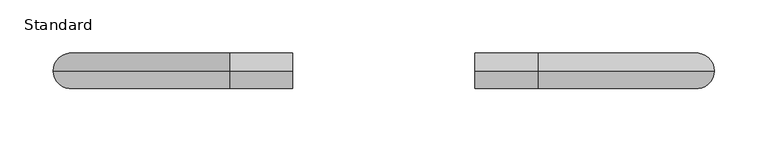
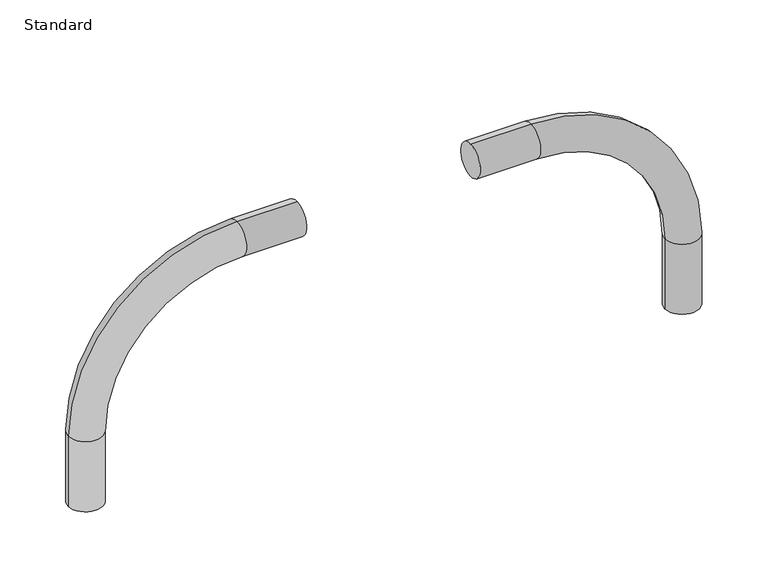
"""IFC4 building model written with IfcOpenShell, lengths in millimetres: proxy geometry, Floor_Box-Modulink-Wiremold-880_Nonmetallic-1_Gang-Fire_Classified : Standard."""

from ifc_helpers import new_model, si_unit, point, frame, origin, place, context, project, spatial, circle_curve, ellipse_curve, trimmed, source, transform, mapped, element, save
from ifc_brep_helpers import plane_surface, cylinder_surface, revolved_surface, advanced_brep


def standard_33e52a59(model_context):
    return source(origin(), model_context, "Body", "AdvancedBrep", [
        advanced_brep(
        [(85.725, 0.0, -104.6099), (85.725, 0.0, -138.2649), (145.0975, 0.0, -104.6099), (145.0975, 0.0, -138.2649), (277.495, 0.0, -270.6624), (311.15, 0.0, -270.6624), (311.15, 0.0, -343.6874), (277.495, 0.0, -343.6874)],
        [
            (0, 1, circle_curve(frame((85.725, 0.0, -121.4374), z_axis=(-1.0, 0.0, 0.0), x_axis=(0.0, 0.0, -1.0)), 16.8275)),
            (1, 0, circle_curve(frame((85.725, 0.0, -121.4374), z_axis=(-1.0, 0.0, 0.0), x_axis=(0.0, 0.0, -1.0)), 16.8275)),
            (0, 2),
            (2, 3, circle_curve(frame((145.0975, 0.0, -121.4374), z_axis=(-1.0, 0.0, 0.0), x_axis=(0.0, 0.0, -1.0)), 16.8275)),
            (3, 1),
            (3, 2, circle_curve(frame((145.0975, 0.0, -121.4374), z_axis=(-1.0, 0.0, 0.0), x_axis=(0.0, 0.0, -1.0)), 16.8275)),
            (4, 3, circle_curve(frame((145.0975, 0.0, -270.6624), z_axis=(0.0, -1.0, 0.0), x_axis=(0.0, 0.0, 1.0)), 132.3975)),
            (2, 5, circle_curve(frame((145.0975, 0.0, -270.6624), z_axis=(0.0, 1.0, 0.0), x_axis=(0.0, 0.0, 1.0)), 166.0525)),
            (5, 4, circle_curve(frame((294.3225, 0.0, -270.6624), z_axis=(0.0, 0.0, 1.0), x_axis=(-1.0, 0.0, 0.0)), 16.8275)),
            (4, 5, circle_curve(frame((294.3225, 0.0, -270.6624), z_axis=(0.0, 0.0, 1.0), x_axis=(-1.0, 0.0, 0.0)), 16.8275)),
            (6, 7, circle_curve(frame((294.3225, 0.0, -343.6874), z_axis=(0.0, 0.0, -1.0), x_axis=(-1.0, 0.0, 0.0)), 16.8275)),
            (7, 6, circle_curve(frame((294.3225, 0.0, -343.6874), z_axis=(0.0, 0.0, -1.0), x_axis=(-1.0, 0.0, 0.0)), 16.8275)),
            (5, 6),
            (7, 4),
        ],
        [
            plane_surface(frame((85.725, 0.0, -121.4374), z_axis=(-1.0, 0.0, 0.0), x_axis=(0.0, 1.0, 0.0))),
            cylinder_surface(frame((85.725, 0.0, -121.4374), z_axis=(-1.0, 0.0, 0.0), x_axis=(0.0, 0.0, -1.0)), 16.8275),
            revolved_surface(trimmed(ellipse_curve(frame((145.0975, 0.0, -121.4374), z_axis=(-1.0, 0.0, 0.0), x_axis=(0.0, 0.0, -1.0)), 16.8275, 16.8275), [point((145.0975, 0.0, -104.6099))], [point((145.0975, 0.0, -138.2649))], True, "CARTESIAN"), (145.0975, 0.0, -270.6624), (0.0, 1.0, 0.0)),
            revolved_surface(trimmed(ellipse_curve(frame((145.0975, 0.0, -121.4374), z_axis=(-1.0, 0.0, 0.0), x_axis=(0.0, 0.0, -1.0)), 16.8275, 16.8275), [point((145.0975, 0.0, -138.2649))], [point((145.0975, 0.0, -104.6099))], True, "CARTESIAN"), (145.0975, 0.0, -270.6624), (0.0, 1.0, 0.0)),
            plane_surface(frame((294.3225, 0.0, -343.6874), z_axis=(0.0, 0.0, -1.0), x_axis=(0.0, 1.0, 0.0))),
            cylinder_surface(frame((294.3225, 0.0, -270.6624), z_axis=(0.0, 0.0, 1.0), x_axis=(-1.0, 0.0, 0.0)), 16.8275),
        ],
        [
            (0, [[1, 2]]),
            (1, [[-1, 3, 4, 5]]),
            (1, [[-2, -5, 6, -3]]),
            (2, [[7, -4, 8, 9]]),
            (3, [[-8, -6, -7, 10]]),
            (4, [[11, 12]]),
            (5, [[-9, 13, -12, 14]]),
            (5, [[-10, -14, -11, -13]]),
        ],
    ),
        advanced_brep(
        [(-311.15, 0.0, -343.6874), (-277.495, 0.0, -343.6874), (-311.15, 0.0, -270.6624), (-277.495, 0.0, -270.6624), (-145.0975, 0.0, -138.2649), (-145.0975, 0.0, -104.6099), (-85.725, 0.0, -104.6099), (-85.725, 0.0, -138.2649)],
        [
            (0, 1, circle_curve(frame((-294.3225, 0.0, -343.6874), z_axis=(0.0, 0.0, -1.0), x_axis=(1.0, 0.0, 0.0)), 16.8275)),
            (1, 0, circle_curve(frame((-294.3225, 0.0, -343.6874), z_axis=(0.0, 0.0, -1.0), x_axis=(1.0, 0.0, 0.0)), 16.8275)),
            (0, 2),
            (2, 3, circle_curve(frame((-294.3225, 0.0, -270.6624), z_axis=(0.0, 0.0, -1.0), x_axis=(1.0, 0.0, 0.0)), 16.8275)),
            (3, 1),
            (3, 2, circle_curve(frame((-294.3225, 0.0, -270.6624), z_axis=(0.0, 0.0, -1.0), x_axis=(1.0, 0.0, 0.0)), 16.8275)),
            (4, 3, circle_curve(frame((-145.0975, 0.0, -270.6624), z_axis=(0.0, -1.0, 0.0), x_axis=(-1.0, 0.0, 0.0)), 132.3975)),
            (2, 5, circle_curve(frame((-145.0975, 0.0, -270.6624), z_axis=(0.0, 1.0, 0.0), x_axis=(-1.0, 0.0, 0.0)), 166.0525)),
            (5, 4, circle_curve(frame((-145.0975, 0.0, -121.4374), z_axis=(-1.0, 0.0, 0.0), x_axis=(0.0, 0.0, -1.0)), 16.8275)),
            (4, 5, circle_curve(frame((-145.0975, 0.0, -121.4374), z_axis=(-1.0, 0.0, 0.0), x_axis=(0.0, 0.0, -1.0)), 16.8275)),
            (6, 7, circle_curve(frame((-85.725, 0.0, -121.4374), z_axis=(1.0, 0.0, 0.0), x_axis=(0.0, 0.0, -1.0)), 16.8275)),
            (7, 6, circle_curve(frame((-85.725, 0.0, -121.4374), z_axis=(1.0, 0.0, 0.0), x_axis=(0.0, 0.0, -1.0)), 16.8275)),
            (5, 6),
            (7, 4),
        ],
        [
            plane_surface(frame((-294.3225, 0.0, -343.6874), z_axis=(0.0, 0.0, -1.0), x_axis=(0.0, 1.0, 0.0))),
            cylinder_surface(frame((-294.3225, 0.0, -343.6874), z_axis=(0.0, 0.0, -1.0), x_axis=(1.0, 0.0, 0.0)), 16.8275),
            revolved_surface(trimmed(ellipse_curve(frame((-294.3225, 0.0, -270.6624), z_axis=(0.0, 0.0, -1.0), x_axis=(1.0, 0.0, 0.0)), 16.8275, 16.8275), [point((-311.15, 0.0, -270.6624))], [point((-277.495, 0.0, -270.6624))], True, "CARTESIAN"), (-145.0975, 0.0, -270.6624), (0.0, 1.0, 0.0)),
            revolved_surface(trimmed(ellipse_curve(frame((-294.3225, 0.0, -270.6624), z_axis=(0.0, 0.0, -1.0), x_axis=(1.0, 0.0, 0.0)), 16.8275, 16.8275), [point((-277.495, 0.0, -270.6624))], [point((-311.15, 0.0, -270.6624))], True, "CARTESIAN"), (-145.0975, 0.0, -270.6624), (0.0, 1.0, 0.0)),
            plane_surface(frame((-85.725, 0.0, -121.4374), z_axis=(1.0, 0.0, 0.0), x_axis=(0.0, 1.0, 0.0))),
            cylinder_surface(frame((-145.0975, 0.0, -121.4374), z_axis=(-1.0, 0.0, 0.0), x_axis=(0.0, 0.0, -1.0)), 16.8275),
        ],
        [
            (0, [[1, 2]]),
            (1, [[-1, 3, 4, 5]]),
            (1, [[-2, -5, 6, -3]]),
            (2, [[7, -4, 8, 9]]),
            (3, [[-8, -6, -7, 10]]),
            (4, [[11, 12]]),
            (5, [[-9, 13, -12, 14]]),
            (5, [[-10, -14, -11, -13]]),
        ],
    ),
        advanced_brep(
        [(85.725, 0.0, -104.6099), (85.725, 0.0, -138.2649), (145.0975, 0.0, -104.6099), (145.0975, 0.0, -138.2649), (277.495, 0.0, -270.6624), (311.15, 0.0, -270.6624), (311.15, 0.0, -343.6874), (277.495, 0.0, -343.6874)],
        [
            (0, 1, circle_curve(frame((85.725, 0.0, -121.4374), z_axis=(-1.0, 0.0, 0.0), x_axis=(0.0, 0.0, -1.0)), 16.8275)),
            (1, 0, circle_curve(frame((85.725, 0.0, -121.4374), z_axis=(-1.0, 0.0, 0.0), x_axis=(0.0, 0.0, -1.0)), 16.8275)),
            (0, 2),
            (2, 3, circle_curve(frame((145.0975, 0.0, -121.4374), z_axis=(-1.0, 0.0, 0.0), x_axis=(0.0, 0.0, -1.0)), 16.8275)),
            (3, 1),
            (3, 2, circle_curve(frame((145.0975, 0.0, -121.4374), z_axis=(-1.0, 0.0, 0.0), x_axis=(0.0, 0.0, -1.0)), 16.8275)),
            (4, 3, circle_curve(frame((145.0975, 0.0, -270.6624), z_axis=(0.0, -1.0, 0.0), x_axis=(0.0, 0.0, 1.0)), 132.3975)),
            (2, 5, circle_curve(frame((145.0975, 0.0, -270.6624), z_axis=(0.0, 1.0, 0.0), x_axis=(0.0, 0.0, 1.0)), 166.0525)),
            (5, 4, circle_curve(frame((294.3225, 0.0, -270.6624), z_axis=(0.0, 0.0, 1.0), x_axis=(-1.0, 0.0, 0.0)), 16.8275)),
            (4, 5, circle_curve(frame((294.3225, 0.0, -270.6624), z_axis=(0.0, 0.0, 1.0), x_axis=(-1.0, 0.0, 0.0)), 16.8275)),
            (6, 7, circle_curve(frame((294.3225, 0.0, -343.6874), z_axis=(0.0, 0.0, -1.0), x_axis=(-1.0, 0.0, 0.0)), 16.8275)),
            (7, 6, circle_curve(frame((294.3225, 0.0, -343.6874), z_axis=(0.0, 0.0, -1.0), x_axis=(-1.0, 0.0, 0.0)), 16.8275)),
            (5, 6),
            (7, 4),
        ],
        [
            plane_surface(frame((85.725, 0.0, -121.4374), z_axis=(-1.0, 0.0, 0.0), x_axis=(0.0, 1.0, 0.0))),
            cylinder_surface(frame((85.725, 0.0, -121.4374), z_axis=(-1.0, 0.0, 0.0), x_axis=(0.0, 0.0, -1.0)), 16.8275),
            revolved_surface(trimmed(ellipse_curve(frame((145.0975, 0.0, -121.4374), z_axis=(-1.0, 0.0, 0.0), x_axis=(0.0, 0.0, -1.0)), 16.8275, 16.8275), [point((145.0975, 0.0, -104.6099))], [point((145.0975, 0.0, -138.2649))], True, "CARTESIAN"), (145.0975, 0.0, -270.6624), (0.0, 1.0, 0.0)),
            revolved_surface(trimmed(ellipse_curve(frame((145.0975, 0.0, -121.4374), z_axis=(-1.0, 0.0, 0.0), x_axis=(0.0, 0.0, -1.0)), 16.8275, 16.8275), [point((145.0975, 0.0, -138.2649))], [point((145.0975, 0.0, -104.6099))], True, "CARTESIAN"), (145.0975, 0.0, -270.6624), (0.0, 1.0, 0.0)),
            plane_surface(frame((294.3225, 0.0, -343.6874), z_axis=(0.0, 0.0, -1.0), x_axis=(0.0, 1.0, 0.0))),
            cylinder_surface(frame((294.3225, 0.0, -270.6624), z_axis=(0.0, 0.0, 1.0), x_axis=(-1.0, 0.0, 0.0)), 16.8275),
        ],
        [
            (0, [[1, 2]]),
            (1, [[-1, 3, 4, 5]]),
            (1, [[-2, -5, 6, -3]]),
            (2, [[7, -4, 8, 9]]),
            (3, [[-8, -6, -7, 10]]),
            (4, [[11, 12]]),
            (5, [[-9, 13, -12, 14]]),
            (5, [[-10, -14, -11, -13]]),
        ],
    ),
        advanced_brep(
        [(-311.15, 0.0, -343.6874), (-277.495, 0.0, -343.6874), (-311.15, 0.0, -270.6624), (-277.495, 0.0, -270.6624), (-145.0975, 0.0, -138.2649), (-145.0975, 0.0, -104.6099), (-85.725, 0.0, -104.6099), (-85.725, 0.0, -138.2649)],
        [
            (0, 1, circle_curve(frame((-294.3225, 0.0, -343.6874), z_axis=(0.0, 0.0, -1.0), x_axis=(1.0, 0.0, 0.0)), 16.8275)),
            (1, 0, circle_curve(frame((-294.3225, 0.0, -343.6874), z_axis=(0.0, 0.0, -1.0), x_axis=(1.0, 0.0, 0.0)), 16.8275)),
            (0, 2),
            (2, 3, circle_curve(frame((-294.3225, 0.0, -270.6624), z_axis=(0.0, 0.0, -1.0), x_axis=(1.0, 0.0, 0.0)), 16.8275)),
            (3, 1),
            (3, 2, circle_curve(frame((-294.3225, 0.0, -270.6624), z_axis=(0.0, 0.0, -1.0), x_axis=(1.0, 0.0, 0.0)), 16.8275)),
            (4, 3, circle_curve(frame((-145.0975, 0.0, -270.6624), z_axis=(0.0, -1.0, 0.0), x_axis=(-1.0, 0.0, 0.0)), 132.3975)),
            (2, 5, circle_curve(frame((-145.0975, 0.0, -270.6624), z_axis=(0.0, 1.0, 0.0), x_axis=(-1.0, 0.0, 0.0)), 166.0525)),
            (5, 4, circle_curve(frame((-145.0975, 0.0, -121.4374), z_axis=(-1.0, 0.0, 0.0), x_axis=(0.0, 0.0, -1.0)), 16.8275)),
            (4, 5, circle_curve(frame((-145.0975, 0.0, -121.4374), z_axis=(-1.0, 0.0, 0.0), x_axis=(0.0, 0.0, -1.0)), 16.8275)),
            (6, 7, circle_curve(frame((-85.725, 0.0, -121.4374), z_axis=(1.0, 0.0, 0.0), x_axis=(0.0, 0.0, -1.0)), 16.8275)),
            (7, 6, circle_curve(frame((-85.725, 0.0, -121.4374), z_axis=(1.0, 0.0, 0.0), x_axis=(0.0, 0.0, -1.0)), 16.8275)),
            (5, 6),
            (7, 4),
        ],
        [
            plane_surface(frame((-294.3225, 0.0, -343.6874), z_axis=(0.0, 0.0, -1.0), x_axis=(0.0, 1.0, 0.0))),
            cylinder_surface(frame((-294.3225, 0.0, -343.6874), z_axis=(0.0, 0.0, -1.0), x_axis=(1.0, 0.0, 0.0)), 16.8275),
            revolved_surface(trimmed(ellipse_curve(frame((-294.3225, 0.0, -270.6624), z_axis=(0.0, 0.0, -1.0), x_axis=(1.0, 0.0, 0.0)), 16.8275, 16.8275), [point((-311.15, 0.0, -270.6624))], [point((-277.495, 0.0, -270.6624))], True, "CARTESIAN"), (-145.0975, 0.0, -270.6624), (0.0, 1.0, 0.0)),
            revolved_surface(trimmed(ellipse_curve(frame((-294.3225, 0.0, -270.6624), z_axis=(0.0, 0.0, -1.0), x_axis=(1.0, 0.0, 0.0)), 16.8275, 16.8275), [point((-277.495, 0.0, -270.6624))], [point((-311.15, 0.0, -270.6624))], True, "CARTESIAN"), (-145.0975, 0.0, -270.6624), (0.0, 1.0, 0.0)),
            plane_surface(frame((-85.725, 0.0, -121.4374), z_axis=(1.0, 0.0, 0.0), x_axis=(0.0, 1.0, 0.0))),
            cylinder_surface(frame((-145.0975, 0.0, -121.4374), z_axis=(-1.0, 0.0, 0.0), x_axis=(0.0, 0.0, -1.0)), 16.8275),
        ],
        [
            (0, [[1, 2]]),
            (1, [[-1, 3, 4, 5]]),
            (1, [[-2, -5, 6, -3]]),
            (2, [[7, -4, 8, 9]]),
            (3, [[-8, -6, -7, 10]]),
            (4, [[11, 12]]),
            (5, [[-9, 13, -12, 14]]),
            (5, [[-10, -14, -11, -13]]),
        ],
    ),
    ])


if __name__ == "__main__":
    model = new_model("IFC4")
    model_context = context("Model", 3, world=origin())
    ifc_project = project(units=[si_unit("LENGTHUNIT", "METRE", prefix="MILLI")], contexts=[model_context])
    site = spatial("IfcSite", under=ifc_project)
    building = spatial("IfcBuilding", under=site)
    placement = place(None, origin())
    standard_shape = standard_33e52a59(model_context)
    element("IfcBuildingElementProxy", 1, Name="Floor_Box-Modulink-Wiremold-880_Nonmetallic-1_Gang-Fire_Classified : Standard", ObjectType="Floor_Box-Modulink-Wiremold-880_Nonmetallic-1_Gang-Fire_Classified : Standard", at=placement, inside=building, context=model_context, shape_type="MappedRepresentation", body=[
        mapped(standard_shape, transform((0.0, 0.0, 0.0), x_axis=(1.0, 0.0, 0.0), y_axis=(0.0, 1.0, 0.0), z_axis=(0.0, 0.0, 1.0))),
    ])
    save(model, "model.ifc")
